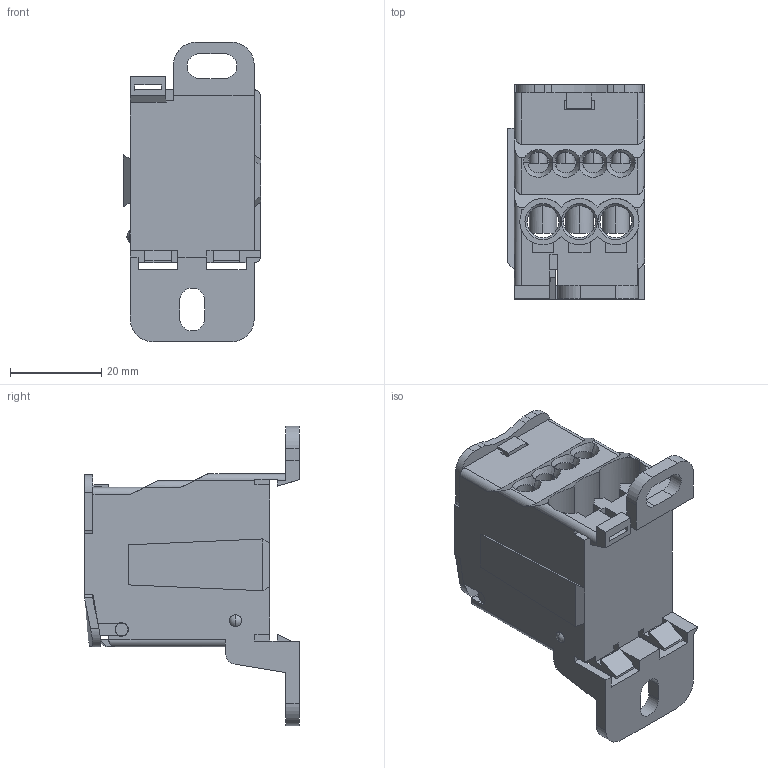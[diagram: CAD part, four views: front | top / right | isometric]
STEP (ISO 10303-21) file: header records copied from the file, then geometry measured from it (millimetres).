
FILE_DESCRIPTION (( 'STEP AP203' ), '1' );
FILE_NAME ('BDA80.STEP', '2018-08-10T19:57:27', ( '' ), ( '' ), 'SwSTEP 2.0', 'SolidWorks 2012', '' );
FILE_SCHEMA (( 'CONFIG_CONTROL_DESIGN' ));
Length unit declared in the file: millimetre
Products named in the file (1): BDA80
Bounding box: 30.1 x 47.1 x 65.8 mm (x, y, z)
Volume: 24087.3 mm3; surface area: 18004.9 mm2
Topology: 1 solids, 1 shells, 413 faces, 1142 edges, 744 vertices
Faces by surface type: plane 259, cylinder 127, cone 20, torus 3, sphere 2, bspline 2
Entity records: 13859 total; most frequent: CARTESIAN_POINT 3052, ORIENTED_EDGE 2284, DIRECTION 2180, EDGE_CURVE 1142, LINE 784, VECTOR 784, VERTEX_POINT 744, AXIS2_PLACEMENT_3D 698
